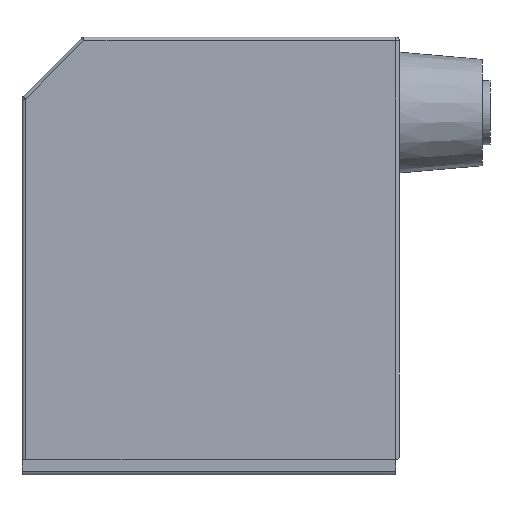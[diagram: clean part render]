
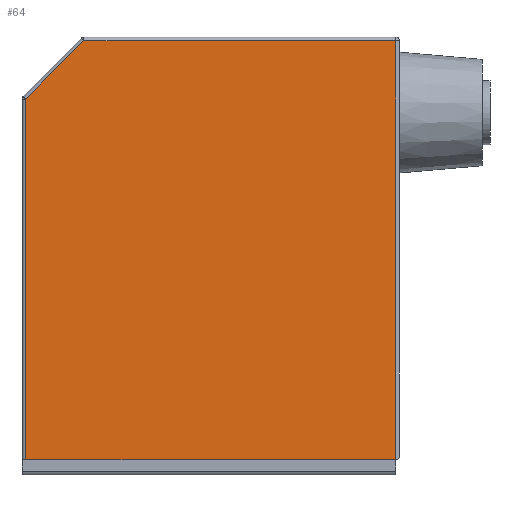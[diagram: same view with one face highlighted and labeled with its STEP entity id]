
A CAD part, left-side view. The second image highlights one B-rep face of the part: STEP entity #64.
In plain terms, the highlighted planar face has unit normal (-1, 0, 0).
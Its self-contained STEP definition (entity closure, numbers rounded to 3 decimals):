
#10 = EDGE_LOOP ( 'NONE', ( #60, #61, #63, #71, #74 ) ) ;
#13 = VERTEX_POINT ( 'NONE', #449 ) ;
#60 = ORIENTED_EDGE ( 'NONE', *, *, #293, .T. ) ;
#61 = ORIENTED_EDGE ( 'NONE', *, *, #62, .T. ) ;
#62 = EDGE_CURVE ( 'NONE', #291, #13, #502, .T. ) ;
#63 = ORIENTED_EDGE ( 'NONE', *, *, #69, .T. ) ;
#64 = ADVANCED_FACE ( 'NONE', ( #498 ), #497, .F. ) ;
#69 = EDGE_CURVE ( 'NONE', #13, #70, #487, .T. ) ;
#70 = VERTEX_POINT ( 'NONE', #483 ) ;
#71 = ORIENTED_EDGE ( 'NONE', *, *, #72, .T. ) ;
#72 = EDGE_CURVE ( 'NONE', #70, #73, #546, .T. ) ;
#73 = VERTEX_POINT ( 'NONE', #542 ) ;
#74 = ORIENTED_EDGE ( 'NONE', *, *, #75, .T. ) ;
#75 = EDGE_CURVE ( 'NONE', #73, #294, #541, .T. ) ;
#291 = VERTEX_POINT ( 'NONE', #925 ) ;
#293 = EDGE_CURVE ( 'NONE', #294, #291, #924, .T. ) ;
#294 = VERTEX_POINT ( 'NONE', #920 ) ;
#449 = CARTESIAN_POINT ( 'NONE',  ( 0., 5., 555. ) ) ;
#483 = CARTESIAN_POINT ( 'NONE',  ( 0., 417.929, 555. ) ) ;
#484 = DIRECTION ( 'NONE',  ( 0., 1., 0. ) ) ;
#485 = VECTOR ( 'NONE', #484, 1000. ) ;
#486 = CARTESIAN_POINT ( 'NONE',  ( 0., 0., 555. ) ) ;
#487 = LINE ( 'NONE', #486, #485 ) ;
#493 = DIRECTION ( 'NONE',  ( 0., 0., -1. ) ) ;
#494 = DIRECTION ( 'NONE',  ( 1., 0., 0. ) ) ;
#495 = CARTESIAN_POINT ( 'NONE',  ( 0., 0., 560. ) ) ;
#496 = AXIS2_PLACEMENT_3D ( 'NONE', #495, #494, #493 ) ;
#497 = PLANE ( 'NONE',  #496 ) ;
#498 = FACE_OUTER_BOUND ( 'NONE', #10, .T. ) ;
#499 = DIRECTION ( 'NONE',  ( 0., 0., 1. ) ) ;
#500 = VECTOR ( 'NONE', #499, 1000. ) ;
#501 = CARTESIAN_POINT ( 'NONE',  ( 0., 5., 560. ) ) ;
#502 = LINE ( 'NONE', #501, #500 ) ;
#538 = DIRECTION ( 'NONE',  ( 0., 0., -1. ) ) ;
#539 = VECTOR ( 'NONE', #538, 1000. ) ;
#540 = CARTESIAN_POINT ( 'NONE',  ( 0., 495., 560. ) ) ;
#541 = LINE ( 'NONE', #540, #539 ) ;
#542 = CARTESIAN_POINT ( 'NONE',  ( 0., 495., 477.929 ) ) ;
#543 = DIRECTION ( 'NONE',  ( 0., 0.707, -0.707 ) ) ;
#544 = VECTOR ( 'NONE', #543, 1000. ) ;
#545 = CARTESIAN_POINT ( 'NONE',  ( 0., 496.464, 476.464 ) ) ;
#546 = LINE ( 'NONE', #545, #544 ) ;
#920 = CARTESIAN_POINT ( 'NONE',  ( 0., 495., 0. ) ) ;
#921 = DIRECTION ( 'NONE',  ( 0., -1., 0. ) ) ;
#922 = VECTOR ( 'NONE', #921, 1000. ) ;
#923 = CARTESIAN_POINT ( 'NONE',  ( 0., 0., 0. ) ) ;
#924 = LINE ( 'NONE', #923, #922 ) ;
#925 = CARTESIAN_POINT ( 'NONE',  ( 0., 5., 0. ) ) ;
